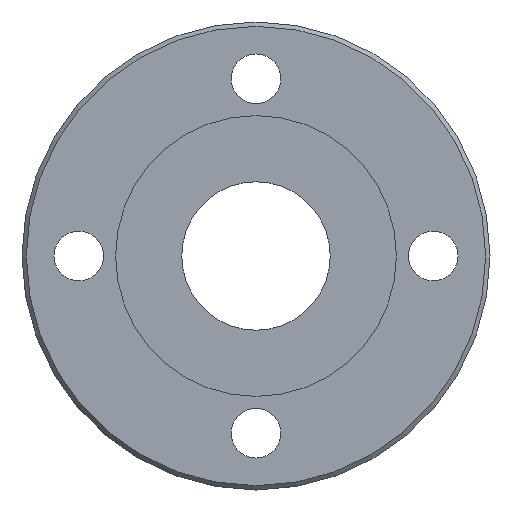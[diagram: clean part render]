
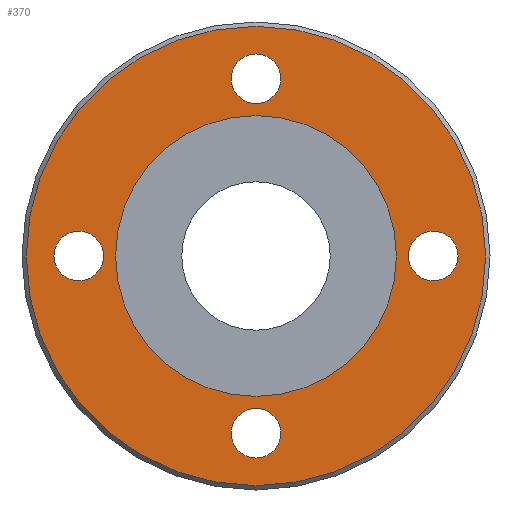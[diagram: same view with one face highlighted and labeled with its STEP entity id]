
A CAD part, left-side view. The second image highlights one B-rep face of the part: STEP entity #370.
In plain terms, the highlighted planar face has unit normal (-1, 0, 0).
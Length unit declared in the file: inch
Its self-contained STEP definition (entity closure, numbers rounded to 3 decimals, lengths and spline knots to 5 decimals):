
#15=FACE_BOUND('',#67,.T.);
#16=FACE_BOUND('',#68,.T.);
#17=FACE_BOUND('',#69,.T.);
#18=FACE_BOUND('',#70,.T.);
#19=FACE_BOUND('',#71,.T.);
#29=PLANE('',#414);
#47=FACE_OUTER_BOUND('',#66,.T.);
#66=EDGE_LOOP('',(#257));
#67=EDGE_LOOP('',(#258,#259));
#68=EDGE_LOOP('',(#260));
#69=EDGE_LOOP('',(#261));
#70=EDGE_LOOP('',(#262));
#71=EDGE_LOOP('',(#263));
#121=CIRCLE('',#408,3.188);
#126=CIRCLE('',#415,1.949);
#127=CIRCLE('',#416,1.949);
#128=CIRCLE('',#417,0.345);
#129=CIRCLE('',#418,0.345);
#130=CIRCLE('',#419,0.345);
#131=CIRCLE('',#420,0.345);
#159=VERTEX_POINT('',#594);
#164=VERTEX_POINT('',#608);
#165=VERTEX_POINT('',#609);
#166=VERTEX_POINT('',#612);
#167=VERTEX_POINT('',#614);
#168=VERTEX_POINT('',#616);
#169=VERTEX_POINT('',#618);
#196=EDGE_CURVE('',#159,#159,#121,.T.);
#203=EDGE_CURVE('',#164,#165,#126,.T.);
#204=EDGE_CURVE('',#165,#164,#127,.T.);
#205=EDGE_CURVE('',#166,#166,#128,.T.);
#206=EDGE_CURVE('',#167,#167,#129,.T.);
#207=EDGE_CURVE('',#168,#168,#130,.T.);
#208=EDGE_CURVE('',#169,#169,#131,.T.);
#257=ORIENTED_EDGE('',*,*,#196,.F.);
#258=ORIENTED_EDGE('',*,*,#203,.F.);
#259=ORIENTED_EDGE('',*,*,#204,.F.);
#260=ORIENTED_EDGE('',*,*,#205,.T.);
#261=ORIENTED_EDGE('',*,*,#206,.T.);
#262=ORIENTED_EDGE('',*,*,#207,.T.);
#263=ORIENTED_EDGE('',*,*,#208,.T.);
#370=ADVANCED_FACE('',(#47,#15,#16,#17,#18,#19),#29,.T.);
#408=AXIS2_PLACEMENT_3D('',#595,#468,#469);
#414=AXIS2_PLACEMENT_3D('',#607,#482,#483);
#415=AXIS2_PLACEMENT_3D('',#610,#484,#485);
#416=AXIS2_PLACEMENT_3D('',#611,#486,#487);
#417=AXIS2_PLACEMENT_3D('',#613,#488,#489);
#418=AXIS2_PLACEMENT_3D('',#615,#490,#491);
#419=AXIS2_PLACEMENT_3D('',#617,#492,#493);
#420=AXIS2_PLACEMENT_3D('',#619,#494,#495);
#468=DIRECTION('center_axis',(1.,0.,0.));
#469=DIRECTION('ref_axis',(0.,-1.,0.));
#482=DIRECTION('center_axis',(-1.,0.,0.));
#483=DIRECTION('ref_axis',(0.,0.,1.));
#484=DIRECTION('center_axis',(-1.,0.,0.));
#485=DIRECTION('ref_axis',(0.,0.,1.));
#486=DIRECTION('center_axis',(-1.,0.,0.));
#487=DIRECTION('ref_axis',(0.,0.,1.));
#488=DIRECTION('center_axis',(1.,0.,0.));
#489=DIRECTION('ref_axis',(0.,0.,-1.));
#490=DIRECTION('center_axis',(1.,0.,0.));
#491=DIRECTION('ref_axis',(0.,-1.,0.));
#492=DIRECTION('center_axis',(1.,0.,0.));
#493=DIRECTION('ref_axis',(0.,0.,
1.));
#494=DIRECTION('center_axis',(1.,0.,0.));
#495=DIRECTION('ref_axis',(0.,1.,0.));
#594=CARTESIAN_POINT('',(-2.402,3.188,0.));
#595=CARTESIAN_POINT('Origin',(-2.402,0.,0.));
#607=CARTESIAN_POINT('Origin',(-2.402,1.949,0.));
#608=CARTESIAN_POINT('',(-2.402,1.949,0.));
#609=CARTESIAN_POINT('',(-2.402,-1.949,0.));
#610=CARTESIAN_POINT('Origin',(-2.402,0.,0.));
#611=CARTESIAN_POINT('Origin',(-2.402,0.,0.));
#612=CARTESIAN_POINT('',(-2.402,0.,2.805));
#613=CARTESIAN_POINT('Origin',(-2.402,0.,2.46));
#614=CARTESIAN_POINT('',(-2.402,2.805,0.));
#615=CARTESIAN_POINT('Origin',(-2.402,2.46,0.));
#616=CARTESIAN_POINT('',(-2.402,0.,-2.805));
#617=CARTESIAN_POINT('Origin',(-2.402,0.,-2.46));
#618=CARTESIAN_POINT('',(-2.402,-2.805,0.));
#619=CARTESIAN_POINT('Origin',(-2.402,-2.46,0.));
